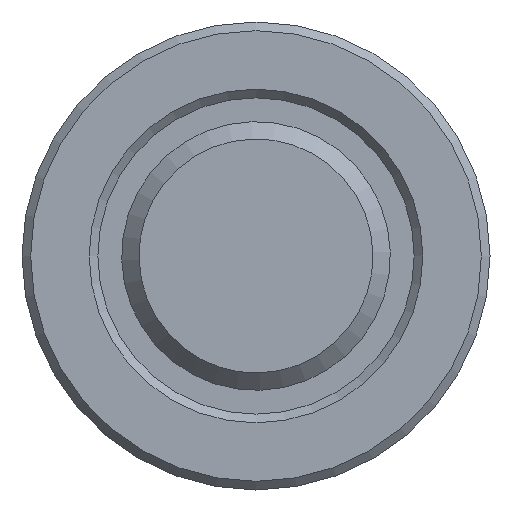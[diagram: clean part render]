
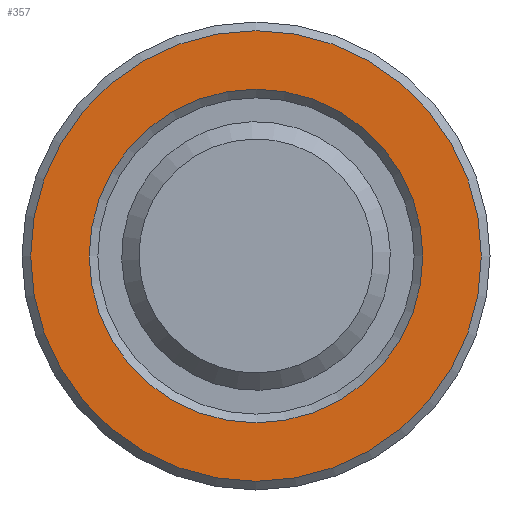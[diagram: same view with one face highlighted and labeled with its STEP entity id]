
A CAD part, front view. The second image highlights one B-rep face of the part: STEP entity #357.
In plain terms, the highlighted planar face has unit normal (0, -1, 0).
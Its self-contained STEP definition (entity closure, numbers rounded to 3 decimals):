
#37=FACE_BOUND('',#80,.T.);
#43=PLANE('',#447);
#54=FACE_OUTER_BOUND('',#79,.T.);
#79=EDGE_LOOP('',(#265));
#80=EDGE_LOOP('',(#266));
#141=CIRCLE('',#444,19.25);
#144=CIRCLE('',#448,26.);
#173=VERTEX_POINT('',#650);
#176=VERTEX_POINT('',#658);
#207=EDGE_CURVE('',#173,#173,#141,.T.);
#211=EDGE_CURVE('',#176,#176,#144,.T.);
#265=ORIENTED_EDGE('',*,*,#211,.F.);
#266=ORIENTED_EDGE('',*,*,#207,.F.);
#357=ADVANCED_FACE('',(#54,#37),#43,.T.);
#444=AXIS2_PLACEMENT_3D('',#651,#518,#519);
#447=AXIS2_PLACEMENT_3D('',#657,#525,#526);
#448=AXIS2_PLACEMENT_3D('',#659,#527,#528);
#518=DIRECTION('center_axis',(0.,-1.,0.));
#519=DIRECTION('ref_axis',(0.,0.,-1.));
#525=DIRECTION('center_axis',(0.,-1.,0.));
#526=DIRECTION('ref_axis',(0.,0.,-1.));
#527=DIRECTION('center_axis',(0.,1.,0.));
#528=DIRECTION('ref_axis',(0.,0.,-1.));
#650=CARTESIAN_POINT('',(0.,0.,19.25));
#651=CARTESIAN_POINT('Origin',(0.,0.,0.));
#657=CARTESIAN_POINT('Origin',(0.,0.,27.));
#658=CARTESIAN_POINT('',(0.,0.,26.));
#659=CARTESIAN_POINT('Origin',(0.,0.,0.));
